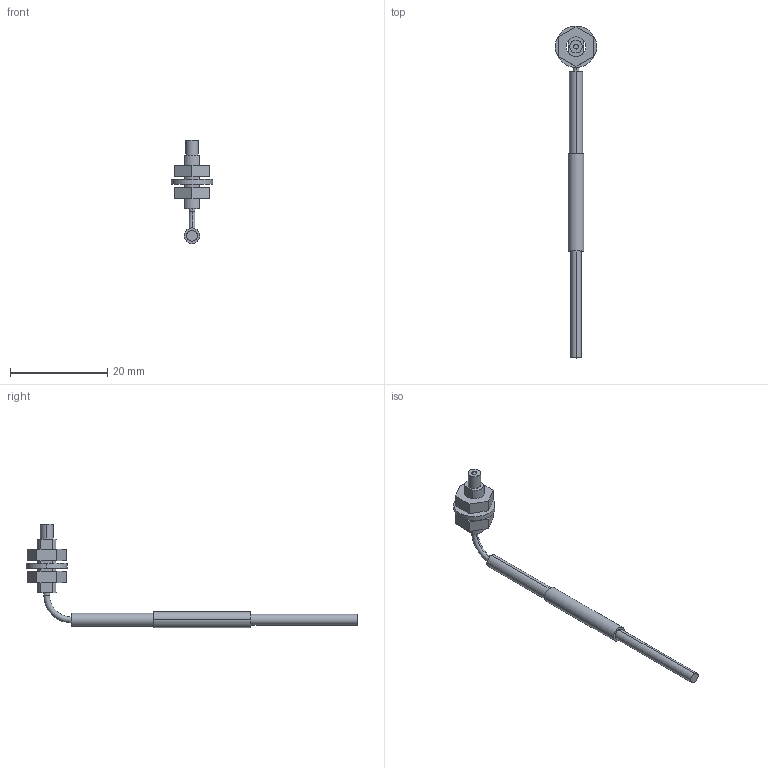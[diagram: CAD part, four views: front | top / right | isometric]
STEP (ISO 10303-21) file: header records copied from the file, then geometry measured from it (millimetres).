
FILE_DESCRIPTION (( 'STEP AP203' ), '1' );
FILE_NAME ('FT-R80.STEP', '2005-09-08T02:22:21', ( '' ), ( '' ), 'SwSTEP 2.0', 'SolidWorks 2004073', '' );
FILE_SCHEMA (( 'CONFIG_CONTROL_DESIGN' ));
Length unit declared in the file: millimetre
Products named in the file (1): FT-R80
Bounding box: 8.5 x 68.25 x 21.2 mm (x, y, z)
Volume: 678.6 mm3; surface area: 1148.6 mm2
Topology: 4 solids, 4 shells, 52 faces, 112 edges, 74 vertices
Faces by surface type: plane 28, cylinder 22, torus 2
Entity records: 1511 total; most frequent: DIRECTION 266, CARTESIAN_POINT 239, ORIENTED_EDGE 224, EDGE_CURVE 112, AXIS2_PLACEMENT_3D 101, VERTEX_POINT 74, EDGE_LOOP 64, VECTOR 64
